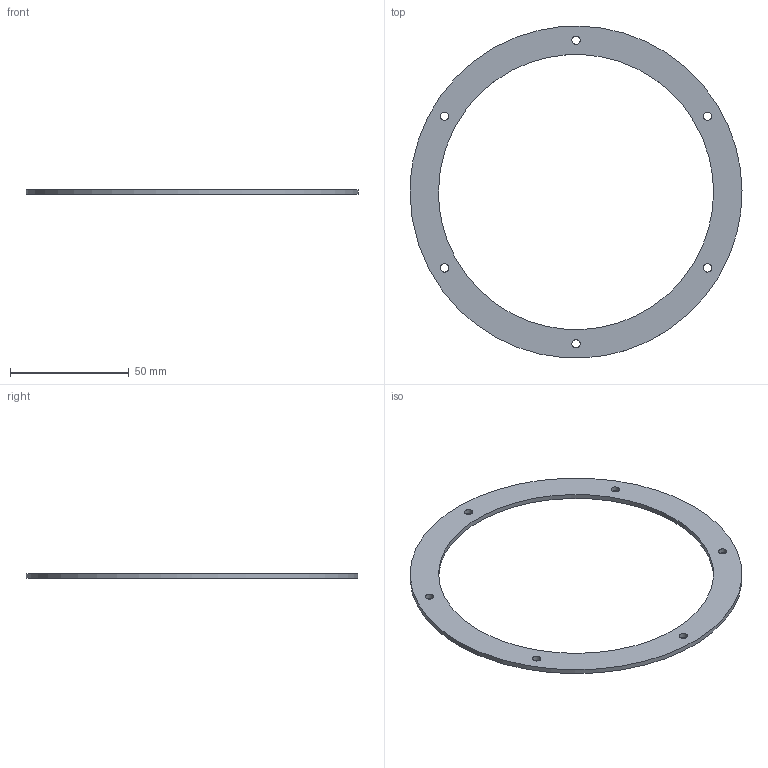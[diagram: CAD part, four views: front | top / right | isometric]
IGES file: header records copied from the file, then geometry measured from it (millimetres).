
Global section: file name: spacer v5; native system: unknown; preprocessor: unknown; author: unknown; organization: unknown; date: 20200329.203620; units: millimetre
Bounding box: 140 x 139.92 x 2 mm (x, y, z)
Volume: 9547 mm3; surface area: 11279.9 mm2
Topology: 1 solids, 1 shells, 10 faces, 24 edges, 16 vertices
Faces by surface type: bspline 10
